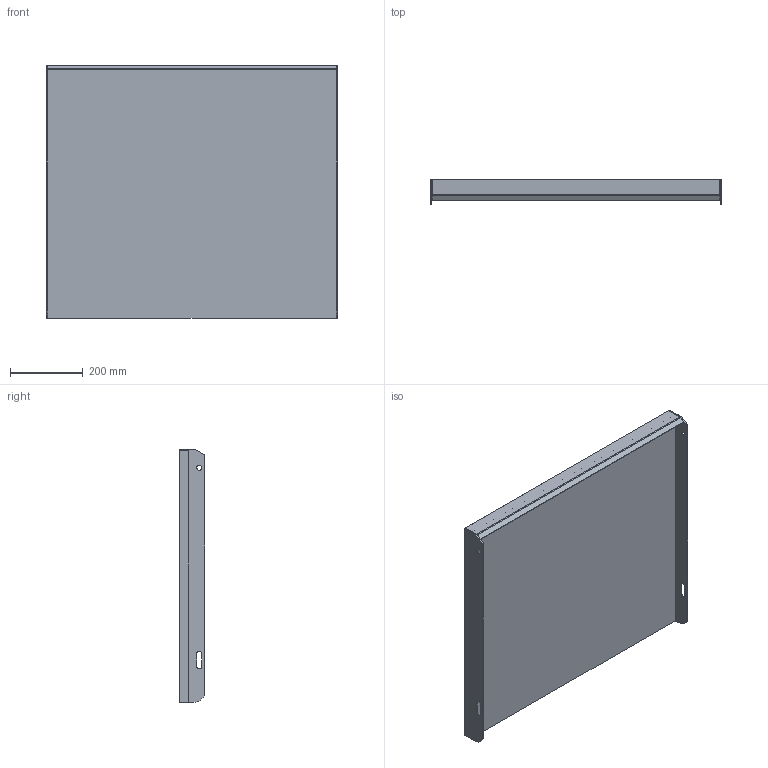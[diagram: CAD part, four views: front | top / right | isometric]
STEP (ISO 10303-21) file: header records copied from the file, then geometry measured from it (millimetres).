
FILE_DESCRIPTION (( 'STEP AP203' ), '1' );
FILE_NAME ('148808071, Plan TH6, 800x700, vfz.STEP', '2020-10-21T13:34:17', ( '' ), ( '' ), 'SwSTEP 2.0', 'SolidWorks 2019', '' );
FILE_SCHEMA (( 'CONFIG_CONTROL_DESIGN' ));
Length unit declared in the file: millimetre
Products named in the file (4): SW0000041386; SW0000041480; SW0000041834; 148808071, Plan TH6, 800x700, vfz
Assembly tree (4 placements, depth 2):
  148808071, Plan TH6, 800x700, vfz
    SW0000041834
    SW0000041386  x2
    SW0000041480
Bounding box: 800 x 70 x 697 mm (x, y, z)
Volume: 14202418.8 mm3; surface area: 1477690.1 mm2
Topology: 4 solids, 4 shells, 59 faces, 142 edges, 92 vertices
Faces by surface type: plane 45, cylinder 14
Entity records: 1693 total; most frequent: DIRECTION 221, CARTESIAN_POINT 220, ORIENTED_EDGE 206, EDGE_CURVE 103, VECTOR 87, LINE 87, AXIS2_PLACEMENT_3D 67, VERTEX_POINT 66
